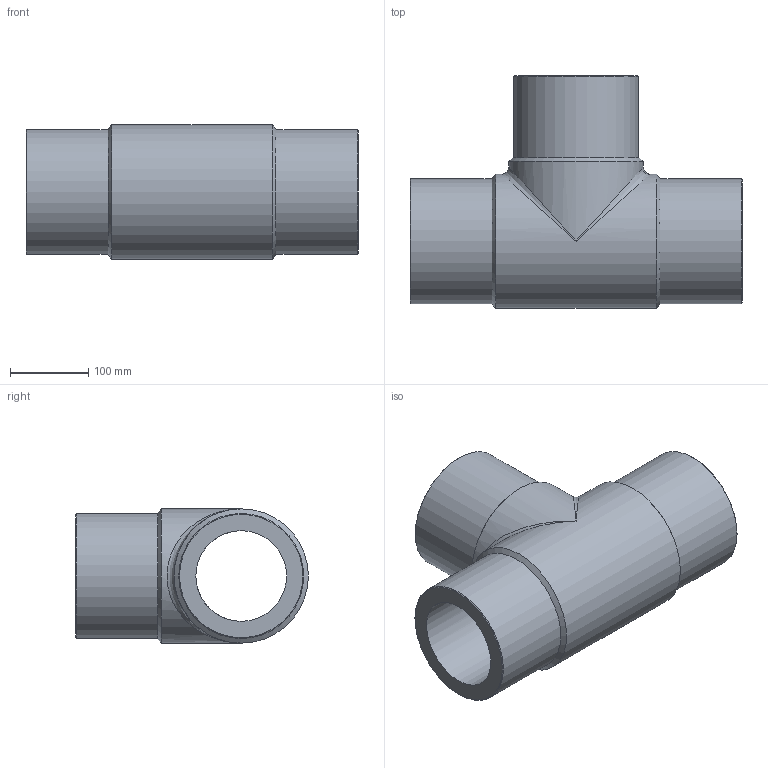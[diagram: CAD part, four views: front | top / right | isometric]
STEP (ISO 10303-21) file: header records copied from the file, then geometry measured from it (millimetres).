
FILE_DESCRIPTION(/* description */ ('Unknown'),/* implementation_level */ '2;1');
FILE_NAME(/* name */ 'TP160H',/* time_stamp */ '2021-08-12T16:43:02+02:00',/* author */ ('Unknown'),/* organization */ ('Unknown'),/* preprocessor_version */ 'ST-DEVELOPER v16.7',/* originating_system */ 'Solid Edge',/* authorisation */ 'Unknown');
FILE_SCHEMA (('AUTOMOTIVE_DESIGN {1 0 10303 214 3 1 1}'));
Length unit declared in the file: millimetre
Products named in the file (1): TP160H
Bounding box: 425 x 298 x 172 mm (x, y, z)
Volume: 5868422 mm3; surface area: 509966.5 mm2
Topology: 1 solids, 1 shells, 18 faces, 44 edges, 23 vertices
Faces by surface type: cylinder 7, cone 6, plane 3, bspline 2
Full cylindrical faces by diameter (mm): 116.2 x2, 160 x3, 172 x2
Entity records: 528 total; most frequent: CARTESIAN_POINT 171, DIRECTION 76, ORIENTED_EDGE 42, AXIS2_PLACEMENT_3D 38, EDGE_LOOP 36, FACE_BOUND 36, EDGE_CURVE 21, VERTEX_POINT 19
